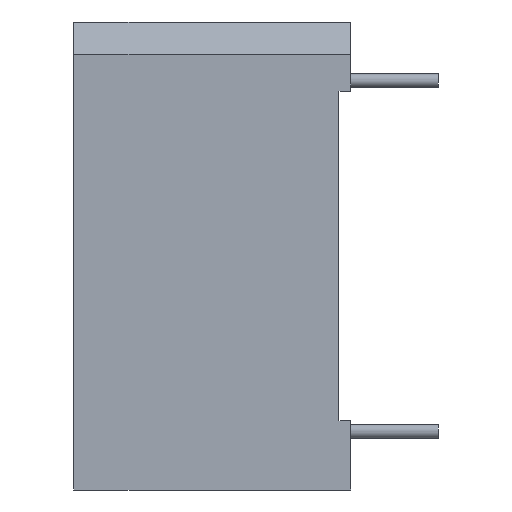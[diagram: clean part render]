
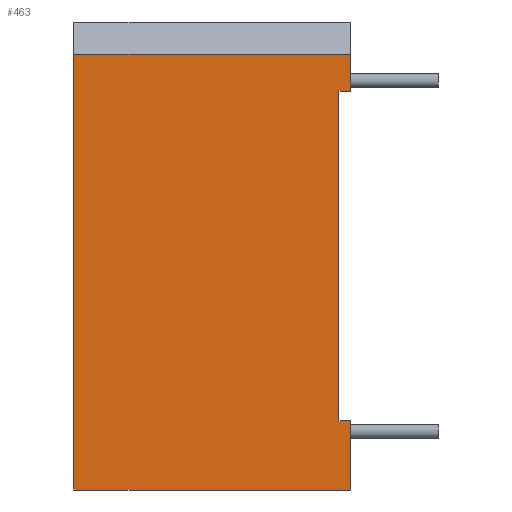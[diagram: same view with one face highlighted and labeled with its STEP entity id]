
A CAD part, left-side view. The second image highlights one B-rep face of the part: STEP entity #463.
In plain terms, the highlighted planar face has unit normal (-1, 0, 0).
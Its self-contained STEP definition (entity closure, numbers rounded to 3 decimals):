
#5 = PLANE ( 'NONE',  #33 ) ;
#6 = DIRECTION ( 'NONE',  ( 0., 0., -1. ) ) ;
#25 = DIRECTION ( 'NONE',  ( 0., 0., 1. ) ) ;
#31 = LINE ( 'NONE', #478, #1286 ) ;
#33 = AXIS2_PLACEMENT_3D ( 'NONE', #1105, #994, #439 ) ;
#40 = EDGE_CURVE ( 'NONE', #1280, #206, #781, .T. ) ;
#44 = VECTOR ( 'NONE', #1140, 1000. ) ;
#46 = ORIENTED_EDGE ( 'NONE', *, *, #100, .T. ) ;
#76 = DIRECTION ( 'NONE',  ( 0., 0., -1. ) ) ;
#100 = EDGE_CURVE ( 'NONE', #662, #202, #275, .T. ) ;
#202 = VERTEX_POINT ( 'NONE', #1395 ) ;
#206 = VERTEX_POINT ( 'NONE', #645 ) ;
#223 = CARTESIAN_POINT ( 'NONE',  ( -15.9, -0.5, 7.15 ) ) ;
#238 = EDGE_CURVE ( 'NONE', #1262, #778, #1285, .T. ) ;
#271 = CARTESIAN_POINT ( 'NONE',  ( -15.9, -0.5, 8.75 ) ) ;
#275 = LINE ( 'NONE', #588, #44 ) ;
#286 = ORIENTED_EDGE ( 'NONE', *, *, #1025, .F. ) ;
#321 = DIRECTION ( 'NONE',  ( 0., 1., 0. ) ) ;
#326 = VECTOR ( 'NONE', #76, 1000. ) ;
#357 = ORIENTED_EDGE ( 'NONE', *, *, #238, .T. ) ;
#408 = EDGE_LOOP ( 'NONE', ( #46, #654, #357, #1152, #286, #646, #1278, #649 ) ) ;
#439 = DIRECTION ( 'NONE',  ( 0., 0., -1. ) ) ;
#463 = ADVANCED_FACE ( 'NONE', ( #657 ), #5, .F. ) ;
#478 = CARTESIAN_POINT ( 'NONE',  ( -15.9, 0., -10.15 ) ) ;
#491 = CARTESIAN_POINT ( 'NONE',  ( -15.9, -0.5, -7.15 ) ) ;
#538 = LINE ( 'NONE', #869, #1187 ) ;
#588 = CARTESIAN_POINT ( 'NONE',  ( -15.9, 11.5, -10.15 ) ) ;
#603 = DIRECTION ( 'NONE',  ( 0., 1., 0. ) ) ;
#627 = CARTESIAN_POINT ( 'NONE',  ( -15.9, -0.5, -7.15 ) ) ;
#631 = CARTESIAN_POINT ( 'NONE',  ( -15.9, -0.5, -7.15 ) ) ;
#645 = CARTESIAN_POINT ( 'NONE',  ( -15.9, -0.5, 7.15 ) ) ;
#646 = ORIENTED_EDGE ( 'NONE', *, *, #40, .F. ) ;
#649 = ORIENTED_EDGE ( 'NONE', *, *, #924, .F. ) ;
#654 = ORIENTED_EDGE ( 'NONE', *, *, #1336, .F. ) ;
#657 = FACE_OUTER_BOUND ( 'NONE', #408, .T. ) ;
#662 = VERTEX_POINT ( 'NONE', #1146 ) ;
#705 = VERTEX_POINT ( 'NONE', #938 ) ;
#778 = VERTEX_POINT ( 'NONE', #1023 ) ;
#781 = LINE ( 'NONE', #1235, #1020 ) ;
#785 = CARTESIAN_POINT ( 'NONE',  ( -15.9, 11.5, 8.75 ) ) ;
#787 = VECTOR ( 'NONE', #1294, 1000. ) ;
#794 = EDGE_CURVE ( 'NONE', #1280, #1136, #1083, .T. ) ;
#869 = CARTESIAN_POINT ( 'NONE',  ( -15.9, 11.5, -10.15 ) ) ;
#924 = EDGE_CURVE ( 'NONE', #662, #1136, #538, .T. ) ;
#938 = CARTESIAN_POINT ( 'NONE',  ( -15.9, 0., 7.15 ) ) ;
#994 = DIRECTION ( 'NONE',  ( 1., 0., 0. ) ) ;
#1020 = VECTOR ( 'NONE', #6, 1000. ) ;
#1021 = VECTOR ( 'NONE', #603, 1000. ) ;
#1023 = CARTESIAN_POINT ( 'NONE',  ( -15.9, 0., -7.15 ) ) ;
#1025 = EDGE_CURVE ( 'NONE', #206, #705, #1326, .T. ) ;
#1077 = CARTESIAN_POINT ( 'NONE',  ( -15.9, 11.5, 8.75 ) ) ;
#1083 = LINE ( 'NONE', #1077, #1021 ) ;
#1105 = CARTESIAN_POINT ( 'NONE',  ( -15.9, 11.5, -10.15 ) ) ;
#1133 = EDGE_CURVE ( 'NONE', #778, #705, #31, .T. ) ;
#1136 = VERTEX_POINT ( 'NONE', #785 ) ;
#1140 = DIRECTION ( 'NONE',  ( 0., -1., 0. ) ) ;
#1146 = CARTESIAN_POINT ( 'NONE',  ( -15.9, 11.5, -10.15 ) ) ;
#1152 = ORIENTED_EDGE ( 'NONE', *, *, #1133, .T. ) ;
#1172 = VECTOR ( 'NONE', #321, 1000. ) ;
#1187 = VECTOR ( 'NONE', #1334, 1000. ) ;
#1235 = CARTESIAN_POINT ( 'NONE',  ( -15.9, -0.5, 8.75 ) ) ;
#1262 = VERTEX_POINT ( 'NONE', #491 ) ;
#1278 = ORIENTED_EDGE ( 'NONE', *, *, #794, .T. ) ;
#1279 = LINE ( 'NONE', #627, #326 ) ;
#1280 = VERTEX_POINT ( 'NONE', #271 ) ;
#1285 = LINE ( 'NONE', #631, #787 ) ;
#1286 = VECTOR ( 'NONE', #25, 1000. ) ;
#1294 = DIRECTION ( 'NONE',  ( 0., 1., 0. ) ) ;
#1326 = LINE ( 'NONE', #223, #1172 ) ;
#1334 = DIRECTION ( 'NONE',  ( 0., 0., 1. ) ) ;
#1336 = EDGE_CURVE ( 'NONE', #1262, #202, #1279, .T. ) ;
#1395 = CARTESIAN_POINT ( 'NONE',  ( -15.9, -0.5, -10.15 ) ) ;
